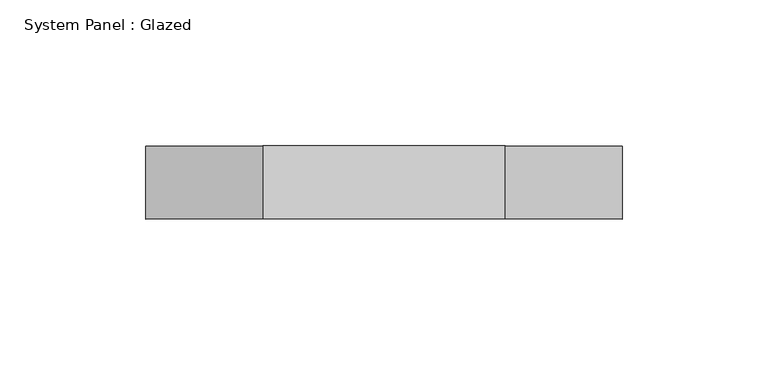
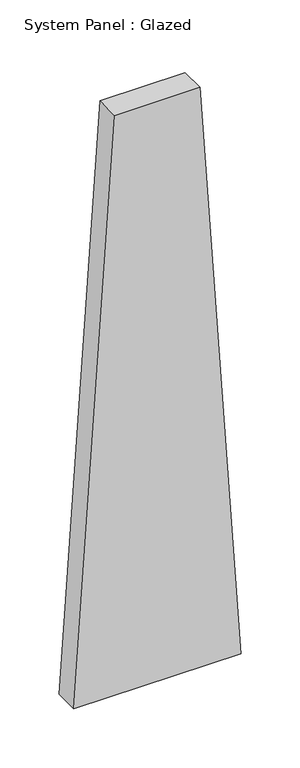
"""IFC4 building model written with IfcOpenShell, lengths in millimetres: plate geometry, System Panel : Glazed."""

from ifc_helpers import new_model, si_unit, frame, origin, place, context, project, spatial, polyline, outline, extrude, source, transform, mapped, element, save


def system_panel_glazed_72c68c99(model_context):
    return source(origin(), model_context, "Body", "SweptSolid", [
        extrude(outline(polyline([(0.0, -81.6756702), (0.0, 81.6756702), (598.663072, 41.6441044), (598.663072, -41.6441044), (0.0, -81.6756702)])), frame((0.0, 24.5, 0.0), z_axis=(0.0, 1.0, 0.0), x_axis=(0.0, 0.0, 1.0)), (0.0, 0.0, 1.0), 25.0),
    ])


if __name__ == "__main__":
    model = new_model("IFC4")
    model_context = context("Model", 3, world=origin())
    ifc_project = project(units=[si_unit("LENGTHUNIT", "METRE", prefix="MILLI")], contexts=[model_context])
    site = spatial("IfcSite", under=ifc_project)
    building = spatial("IfcBuilding", under=site)
    placement = place(None, origin())
    system_panel_glazed_shape = system_panel_glazed_72c68c99(model_context)
    element("IfcPlate", 1, ObjectType="System Panel : Glazed", at=placement, inside=building, context=model_context, shape_type="MappedRepresentation", body=[
        mapped(system_panel_glazed_shape, transform((0.0, 0.0, 0.0), x_axis=(1.0, 0.0, 0.0), y_axis=(0.0, 1.0, 0.0), z_axis=(0.0, 0.0, 1.0))),
    ])
    save(model, "model.ifc")
